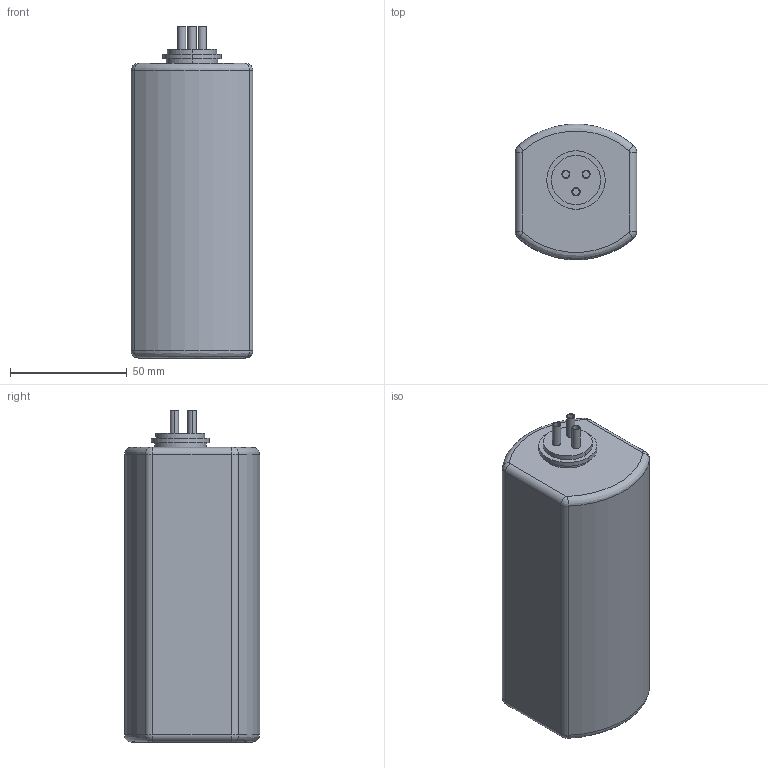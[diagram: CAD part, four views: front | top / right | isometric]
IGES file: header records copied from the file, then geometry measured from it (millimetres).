
Start section: IGES file generated from Kompas d.0 for Windows drawing by the IGES translator from Ascon Ltd., translator version IGESOUT-5.1.
Global section: file name: D:\Àâèàìîäåëèçì\Áèáëèîòåêà\Áàê 320 ñ.ñ\Áàê 320 ñ.ñ.igs; native system: Kompas( 32 bit ) for Windows; preprocessor: 1.0; author: unknown; organization: ASCON; date: -17891112:141436; units: millimetre
Bounding box: 52 x 57.77 x 142 mm (x, y, z)
Surface area: 30233 mm2 (no closed solid volume)
Topology: 0 solids, 0 shells, 163 faces, 826 edges, 826 vertices
Faces by surface type: extrusion 76, revolution 48, bspline 39
